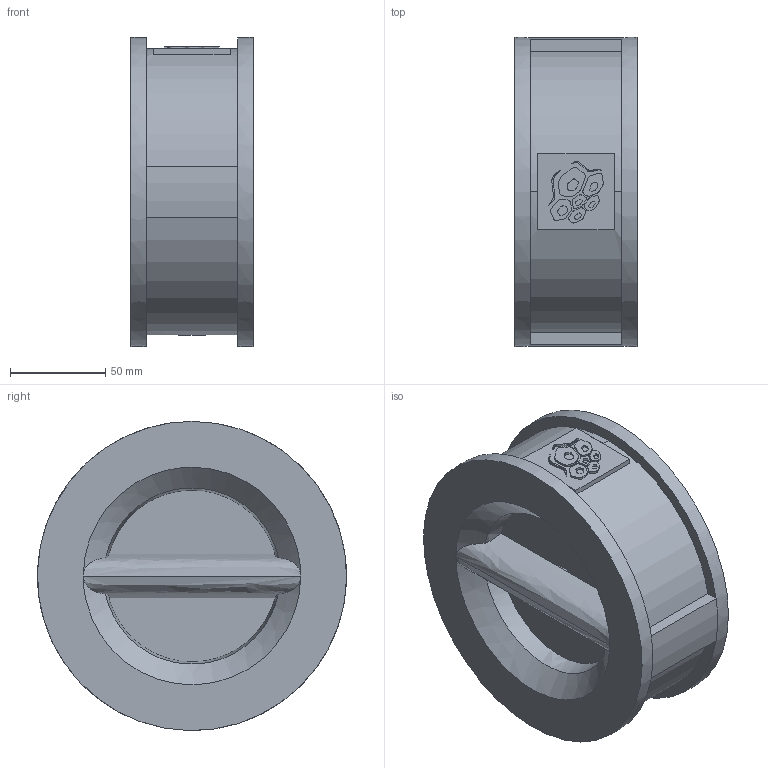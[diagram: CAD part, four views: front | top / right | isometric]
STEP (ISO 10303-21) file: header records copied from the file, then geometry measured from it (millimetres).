
FILE_DESCRIPTION(('STEP AP203'), '1');
FILE_NAME('3D_400_0100_16', '', ('UNSPECIFIED'), ('UNSPECIFIED'), 'C3D Converter', 'C3D Toolkit', '');
FILE_SCHEMA(('CONFIG_CONTROL_DESIGN'));
Length unit declared in the file: millimetre
Bounding box: 64 x 162 x 162 mm (x, y, z)
Volume: 677214.6 mm3; surface area: 115772.2 mm2
Topology: 1 solids, 2 shells, 873 faces, 2549 edges, 1693 vertices
Faces by surface type: plane 844, bspline 22, cylinder 7
Full cylindrical faces by diameter (mm): 13.646 x1, 19.646 x1, 104 x1, 110 x1, 116 x1
Entity records: 40083 total; most frequent: CARTESIAN_POINT 10162, ORIENTED_EDGE 5078, DIRECTION 4195, EDGE_CURVE 2539, LINE 2459, VECTOR 2459, VERTEX_POINT 1693, EDGE_LOOP 900
